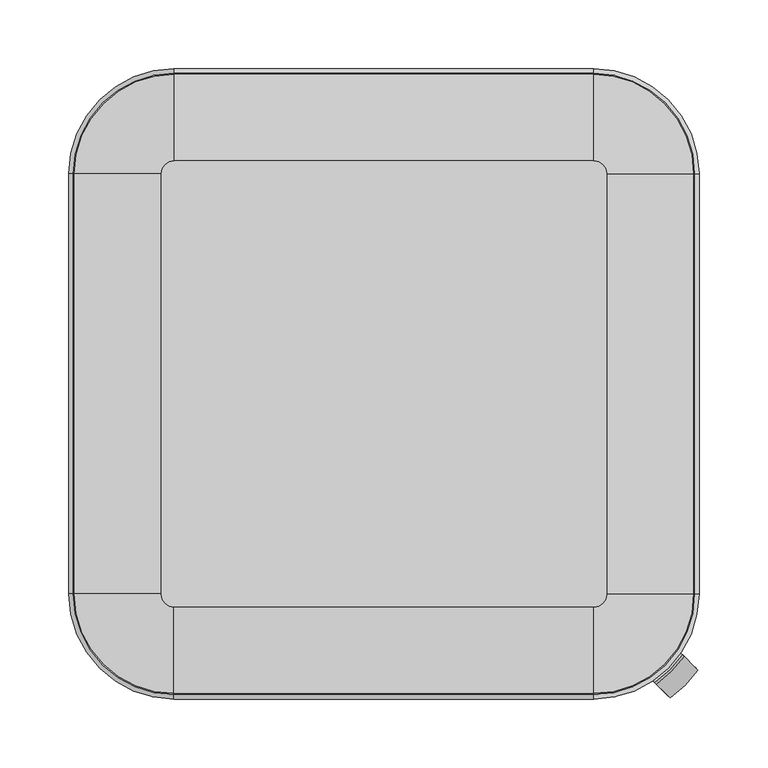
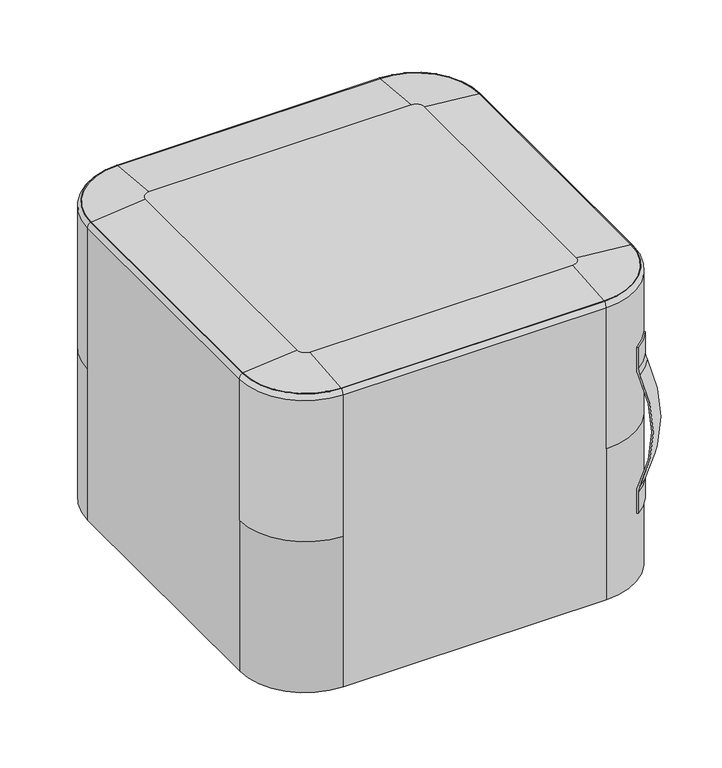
"""IFC4 building model written with IfcOpenShell, lengths in millimetres: furniture geometry, Indiana-Otty-Ottoman_Square : 840-1815SO."""

from ifc_helpers import new_model, si_unit, point, frame, origin, place, context, project, spatial, polyline, circle_curve, ellipse_curve, trimmed, source, transform, mapped, element, save
from ifc_brep_helpers import plane_surface, cylinder_surface, revolved_surface, advanced_brep


def furniture_f773997b(model_context):
    return source(origin(), model_context, "Body", "AdvancedBrep", [
        advanced_brep(
        [(174.625, -174.625, 19.8875), (174.625, -197.125, 19.8875), (174.625, -152.125, 19.8875), (174.625, -196.6765082, 4.2458827), (174.625, -152.5734918, 4.2458827), (174.625, -192.1913665, -0.1125), (174.625, -157.0586335, -0.1125), (174.625, -184.8926178, -0.1125), (174.625, -164.3573822, -0.1125), (174.625, -180.9981417, 3.9179615), (174.625, -168.2518583, 3.9179615), (174.625, -174.625, 3.9179615)],
        [
            (0, 1),
            (1, 2, circle_curve(frame((174.625, -174.625, 19.8875), z_axis=(0.0, 0.0, 1.0), x_axis=(0.0, -1.0, 0.0)), 22.5)),
            (2, 0),
            (2, 1, circle_curve(frame((174.625, -174.625, 19.8875), z_axis=(0.0, 0.0, 1.0), x_axis=(0.0, -1.0, 0.0)), 22.5)),
            (1, 3),
            (3, 4, circle_curve(frame((174.625, -174.625, 4.2458827), z_axis=(0.0, 0.0, 1.0), x_axis=(0.0, -1.0, 0.0)), 22.0515082)),
            (4, 2),
            (4, 3, circle_curve(frame((174.625, -174.625, 4.2458827), z_axis=(0.0, 0.0, 1.0), x_axis=(0.0, -1.0, 0.0)), 22.0515082)),
            (3, 5, circle_curve(frame((174.625, -192.1913665, 4.3744851), z_axis=(1.0, 0.0, 0.0), x_axis=(0.0, 1.0, 0.0)), 4.4869851)),
            (5, 6, circle_curve(frame((174.625, -174.625, -0.1125), z_axis=(0.0, 0.0, 1.0), x_axis=(0.0, -1.0, 0.0)), 17.5663665)),
            (6, 4, circle_curve(frame((174.625, -157.0586335, 4.3744851), z_axis=(1.0, 0.0, 0.0), x_axis=(0.0, -1.0, 0.0)), 4.4869851)),
            (6, 5, circle_curve(frame((174.625, -174.625, -0.1125), z_axis=(0.0, 0.0, 1.0), x_axis=(0.0, -1.0, 0.0)), 17.5663665)),
            (5, 7),
            (7, 8, circle_curve(frame((174.625, -174.625, -0.1125), z_axis=(0.0, 0.0, 1.0), x_axis=(0.0, -1.0, 0.0)), 10.2676178)),
            (8, 6),
            (8, 7, circle_curve(frame((174.625, -174.625, -0.1125), z_axis=(0.0, 0.0, 1.0), x_axis=(0.0, -1.0, 0.0)), 10.2676178)),
            (7, 9, circle_curve(frame((174.625, -184.8926178, 3.7842702), z_axis=(1.0, 0.0, 0.0), x_axis=(0.0, 1.0, 0.0)), 3.8967702)),
            (9, 10, circle_curve(frame((174.625, -174.625, 3.9179615), z_axis=(0.0, 0.0, 1.0), x_axis=(0.0, -1.0, 0.0)), 6.3731417)),
            (10, 8, circle_curve(frame((174.625, -164.3573822, 3.7842702), z_axis=(1.0, 0.0, 0.0), x_axis=(0.0, -1.0, 0.0)), 3.8967702)),
            (10, 9, circle_curve(frame((174.625, -174.625, 3.9179615), z_axis=(0.0, 0.0, 1.0), x_axis=(0.0, -1.0, 0.0)), 6.3731417)),
            (9, 11),
            (11, 10),
        ],
        [
            plane_surface(frame((174.625, -174.625, 19.8875), z_axis=(0.0, 0.0, 1.0), x_axis=(0.0, -1.0, 0.0))),
            revolved_surface(polyline([(174.625, -196.6765082, 4.2458827), (174.625, -197.125, 19.8875)]), (174.625, -174.625, 31.0803862), (0.0, 0.0, 1.0)),
            revolved_surface(trimmed(ellipse_curve(frame((174.625, -192.1913665, 4.3744851), z_axis=(-1.0, 0.0, 0.0), x_axis=(0.0, 1.0, 0.0)), 4.4869851, 4.4869851), [point((174.625, -192.1913665, -0.1125))], [point((174.625, -196.6765082, 4.2458827))], True, "CARTESIAN"), (174.625, -174.625, 31.0803862), (0.0, 0.0, 1.0)),
            plane_surface(frame((174.625, -174.625, -0.1125), z_axis=(0.0, 0.0, -1.0), x_axis=(0.0, -1.0, 0.0))),
            revolved_surface(trimmed(ellipse_curve(frame((174.625, -184.8926178, 3.7842702), z_axis=(-1.0, 0.0, 0.0), x_axis=(0.0, 1.0, 0.0)), 3.8967702, 3.8967702), [point((174.625, -180.9981417, 3.9179615))], [point((174.625, -184.8926178, -0.1125))], True, "CARTESIAN"), (174.625, -174.625, 31.0803862), (0.0, 0.0, 1.0)),
            plane_surface(frame((174.625, -174.625, 3.9179615), z_axis=(0.0, 0.0, -1.0), x_axis=(0.0, -1.0, 0.0))),
        ],
        [
            (0, [[1, 2, 3]]),
            (0, [[-3, 4, -1]]),
            (1, [[-2, 5, 6, 7]]),
            (1, [[-4, -7, 8, -5]]),
            (2, [[-6, 9, 10, 11]]),
            (2, [[-8, -11, 12, -9]]),
            (3, [[-10, 13, 14, 15]]),
            (3, [[-12, -15, 16, -13]]),
            (4, [[-14, 17, 18, 19]]),
            (4, [[-16, -19, 20, -17]]),
            (5, [[-18, 21, 22]]),
            (5, [[-20, -22, -21]]),
        ],
    ),
        advanced_brep(
        [(174.625, 174.625, 19.8875), (174.625, 152.125, 19.8875), (174.625, 197.125, 19.8875), (174.625, 152.5734918, 4.2458827), (174.625, 196.6765082, 4.2458827), (174.625, 157.0586335, -0.1125), (174.625, 192.1913665, -0.1125), (174.625, 164.3573822, -0.1125), (174.625, 184.8926178, -0.1125), (174.625, 168.2518583, 3.9179615), (174.625, 180.9981417, 3.9179615), (174.625, 174.625, 3.9179615)],
        [
            (0, 1),
            (1, 2, circle_curve(frame((174.625, 174.625, 19.8875), z_axis=(0.0, 0.0, 1.0), x_axis=(0.0, -1.0, 0.0)), 22.5)),
            (2, 0),
            (2, 1, circle_curve(frame((174.625, 174.625, 19.8875), z_axis=(0.0, 0.0, 1.0), x_axis=(0.0, -1.0, 0.0)), 22.5)),
            (1, 3),
            (3, 4, circle_curve(frame((174.625, 174.625, 4.2458827), z_axis=(0.0, 0.0, 1.0), x_axis=(0.0, -1.0, 0.0)), 22.0515082)),
            (4, 2),
            (4, 3, circle_curve(frame((174.625, 174.625, 4.2458827), z_axis=(0.0, 0.0, 1.0), x_axis=(0.0, -1.0, 0.0)), 22.0515082)),
            (3, 5, circle_curve(frame((174.625, 157.0586335, 4.3744851), z_axis=(1.0, 0.0, 0.0), x_axis=(0.0, 1.0, 0.0)), 4.4869851)),
            (5, 6, circle_curve(frame((174.625, 174.625, -0.1125), z_axis=(0.0, 0.0, 1.0), x_axis=(0.0, -1.0, 0.0)), 17.5663665)),
            (6, 4, circle_curve(frame((174.625, 192.1913665, 4.3744851), z_axis=(1.0, 0.0, 0.0), x_axis=(0.0, -1.0, 0.0)), 4.4869851)),
            (6, 5, circle_curve(frame((174.625, 174.625, -0.1125), z_axis=(0.0, 0.0, 1.0), x_axis=(0.0, -1.0, 0.0)), 17.5663665)),
            (5, 7),
            (7, 8, circle_curve(frame((174.625, 174.625, -0.1125), z_axis=(0.0, 0.0, 1.0), x_axis=(0.0, -1.0, 0.0)), 10.2676178)),
            (8, 6),
            (8, 7, circle_curve(frame((174.625, 174.625, -0.1125), z_axis=(0.0, 0.0, 1.0), x_axis=(0.0, -1.0, 0.0)), 10.2676178)),
            (7, 9, circle_curve(frame((174.625, 164.3573822, 3.7842702), z_axis=(1.0, 0.0, 0.0), x_axis=(0.0, 1.0, 0.0)), 3.8967702)),
            (9, 10, circle_curve(frame((174.625, 174.625, 3.9179615), z_axis=(0.0, 0.0, 1.0), x_axis=(0.0, -1.0, 0.0)), 6.3731417)),
            (10, 8, circle_curve(frame((174.625, 184.8926178, 3.7842702), z_axis=(1.0, 0.0, 0.0), x_axis=(0.0, -1.0, 0.0)), 3.8967702)),
            (10, 9, circle_curve(frame((174.625, 174.625, 3.9179615), z_axis=(0.0, 0.0, 1.0), x_axis=(0.0, -1.0, 0.0)), 6.3731417)),
            (9, 11),
            (11, 10),
        ],
        [
            plane_surface(frame((174.625, 174.625, 19.8875), z_axis=(0.0, 0.0, 1.0), x_axis=(0.0, -1.0, 0.0))),
            revolved_surface(polyline([(174.625, 152.5734918, 4.2458827), (174.625, 152.125, 19.8875)]), (174.625, 174.625, 31.0803862), (0.0, 0.0, 1.0)),
            revolved_surface(trimmed(ellipse_curve(frame((174.625, 157.0586335, 4.3744851), z_axis=(-1.0, 0.0, 0.0), x_axis=(0.0, 1.0, 0.0)), 4.4869851, 4.4869851), [point((174.625, 157.0586335, -0.1125))], [point((174.625, 152.5734918, 4.2458827))], True, "CARTESIAN"), (174.625, 174.625, 31.0803862), (0.0, 0.0, 1.0)),
            plane_surface(frame((174.625, 174.625, -0.1125), z_axis=(0.0, 0.0, -1.0), x_axis=(0.0, -1.0, 0.0))),
            revolved_surface(trimmed(ellipse_curve(frame((174.625, 164.3573822, 3.7842702), z_axis=(-1.0, 0.0, 0.0), x_axis=(0.0, 1.0, 0.0)), 3.8967702, 3.8967702), [point((174.625, 168.2518583, 3.9179615))], [point((174.625, 164.3573822, -0.1125))], True, "CARTESIAN"), (174.625, 174.625, 31.0803862), (0.0, 0.0, 1.0)),
            plane_surface(frame((174.625, 174.625, 3.9179615), z_axis=(0.0, 0.0, -1.0), x_axis=(0.0, -1.0, 0.0))),
        ],
        [
            (0, [[1, 2, 3]]),
            (0, [[-3, 4, -1]]),
            (1, [[-2, 5, 6, 7]]),
            (1, [[-4, -7, 8, -5]]),
            (2, [[-6, 9, 10, 11]]),
            (2, [[-8, -11, 12, -9]]),
            (3, [[-10, 13, 14, 15]]),
            (3, [[-12, -15, 16, -13]]),
            (4, [[-14, 17, 18, 19]]),
            (4, [[-16, -19, 20, -17]]),
            (5, [[-18, 21, 22]]),
            (5, [[-20, -22, -21]]),
        ],
    ),
        advanced_brep(
        [(-174.625, -174.625, 19.8875), (-174.625, -197.125, 19.8875), (-174.625, -152.125, 19.8875), (-174.625, -196.6765082, 4.2458827), (-174.625, -152.5734918, 4.2458827), (-174.625, -192.1913665, -0.1125), (-174.625, -157.0586335, -0.1125), (-174.625, -184.8926178, -0.1125), (-174.625, -164.3573822, -0.1125), (-174.625, -180.9981417, 3.9179615), (-174.625, -168.2518583, 3.9179615), (-174.625, -174.625, 3.9179615)],
        [
            (0, 1),
            (1, 2, circle_curve(frame((-174.625, -174.625, 19.8875), z_axis=(0.0, 0.0, 1.0), x_axis=(0.0, -1.0, 0.0)), 22.5)),
            (2, 0),
            (2, 1, circle_curve(frame((-174.625, -174.625, 19.8875), z_axis=(0.0, 0.0, 1.0), x_axis=(0.0, -1.0, 0.0)), 22.5)),
            (1, 3),
            (3, 4, circle_curve(frame((-174.625, -174.625, 4.2458827), z_axis=(0.0, 0.0, 1.0), x_axis=(0.0, -1.0, 0.0)), 22.0515082)),
            (4, 2),
            (4, 3, circle_curve(frame((-174.625, -174.625, 4.2458827), z_axis=(0.0, 0.0, 1.0), x_axis=(0.0, -1.0, 0.0)), 22.0515082)),
            (3, 5, circle_curve(frame((-174.625, -192.1913665, 4.3744851), z_axis=(1.0, 0.0, 0.0), x_axis=(0.0, 1.0, 0.0)), 4.4869851)),
            (5, 6, circle_curve(frame((-174.625, -174.625, -0.1125), z_axis=(0.0, 0.0, 1.0), x_axis=(0.0, -1.0, 0.0)), 17.5663665)),
            (6, 4, circle_curve(frame((-174.625, -157.0586335, 4.3744851), z_axis=(1.0, 0.0, 0.0), x_axis=(0.0, -1.0, 0.0)), 4.4869851)),
            (6, 5, circle_curve(frame((-174.625, -174.625, -0.1125), z_axis=(0.0, 0.0, 1.0), x_axis=(0.0, -1.0, 0.0)), 17.5663665)),
            (5, 7),
            (7, 8, circle_curve(frame((-174.625, -174.625, -0.1125), z_axis=(0.0, 0.0, 1.0), x_axis=(0.0, -1.0, 0.0)), 10.2676178)),
            (8, 6),
            (8, 7, circle_curve(frame((-174.625, -174.625, -0.1125), z_axis=(0.0, 0.0, 1.0), x_axis=(0.0, -1.0, 0.0)), 10.2676178)),
            (7, 9, circle_curve(frame((-174.625, -184.8926178, 3.7842702), z_axis=(1.0, 0.0, 0.0), x_axis=(0.0, 1.0, 0.0)), 3.8967702)),
            (9, 10, circle_curve(frame((-174.625, -174.625, 3.9179615), z_axis=(0.0, 0.0, 1.0), x_axis=(0.0, -1.0, 0.0)), 6.3731417)),
            (10, 8, circle_curve(frame((-174.625, -164.3573822, 3.7842702), z_axis=(1.0, 0.0, 0.0), x_axis=(0.0, -1.0, 0.0)), 3.8967702)),
            (10, 9, circle_curve(frame((-174.625, -174.625, 3.9179615), z_axis=(0.0, 0.0, 1.0), x_axis=(0.0, -1.0, 0.0)), 6.3731417)),
            (9, 11),
            (11, 10),
        ],
        [
            plane_surface(frame((-174.625, -174.625, 19.8875), z_axis=(0.0, 0.0, 1.0), x_axis=(0.0, -1.0, 0.0))),
            revolved_surface(polyline([(-174.625, -196.6765082, 4.2458827), (-174.625, -197.125, 19.8875)]), (-174.625, -174.625, 31.0803862), (0.0, 0.0, 1.0)),
            revolved_surface(trimmed(ellipse_curve(frame((-174.625, -192.1913665, 4.3744851), z_axis=(-1.0, 0.0, 0.0), x_axis=(0.0, 1.0, 0.0)), 4.4869851, 4.4869851), [point((-174.625, -192.1913665, -0.1125))], [point((-174.625, -196.6765082, 4.2458827))], True, "CARTESIAN"), (-174.625, -174.625, 31.0803862), (0.0, 0.0, 1.0)),
            plane_surface(frame((-174.625, -174.625, -0.1125), z_axis=(0.0, 0.0, -1.0), x_axis=(0.0, -1.0, 0.0))),
            revolved_surface(trimmed(ellipse_curve(frame((-174.625, -184.8926178, 3.7842702), z_axis=(-1.0, 0.0, 0.0), x_axis=(0.0, 1.0, 0.0)), 3.8967702, 3.8967702), [point((-174.625, -180.9981417, 3.9179615))], [point((-174.625, -184.8926178, -0.1125))], True, "CARTESIAN"), (-174.625, -174.625, 31.0803862), (0.0, 0.0, 1.0)),
            plane_surface(frame((-174.625, -174.625, 3.9179615), z_axis=(0.0, 0.0, -1.0), x_axis=(0.0, -1.0, 0.0))),
        ],
        [
            (0, [[1, 2, 3]]),
            (0, [[-3, 4, -1]]),
            (1, [[-2, 5, 6, 7]]),
            (1, [[-4, -7, 8, -5]]),
            (2, [[-6, 9, 10, 11]]),
            (2, [[-8, -11, 12, -9]]),
            (3, [[-10, 13, 14, 15]]),
            (3, [[-12, -15, 16, -13]]),
            (4, [[-14, 17, 18, 19]]),
            (4, [[-16, -19, 20, -17]]),
            (5, [[-18, 21, 22]]),
            (5, [[-20, -22, -21]]),
        ],
    ),
        advanced_brep(
        [(-174.625, 174.625, 19.8875), (-174.625, 152.125, 19.8875), (-174.625, 197.125, 19.8875), (-174.625, 152.5734918, 4.2458827), (-174.625, 196.6765082, 4.2458827), (-174.625, 157.0586335, -0.1125), (-174.625, 192.1913665, -0.1125), (-174.625, 164.3573822, -0.1125), (-174.625, 184.8926178, -0.1125), (-174.625, 168.2518583, 3.9179615), (-174.625, 180.9981417, 3.9179615), (-174.625, 174.625, 3.9179615)],
        [
            (0, 1),
            (1, 2, circle_curve(frame((-174.625, 174.625, 19.8875), z_axis=(0.0, 0.0, 1.0), x_axis=(0.0, -1.0, 0.0)), 22.5)),
            (2, 0),
            (2, 1, circle_curve(frame((-174.625, 174.625, 19.8875), z_axis=(0.0, 0.0, 1.0), x_axis=(0.0, -1.0, 0.0)), 22.5)),
            (1, 3),
            (3, 4, circle_curve(frame((-174.625, 174.625, 4.2458827), z_axis=(0.0, 0.0, 1.0), x_axis=(0.0, -1.0, 0.0)), 22.0515082)),
            (4, 2),
            (4, 3, circle_curve(frame((-174.625, 174.625, 4.2458827), z_axis=(0.0, 0.0, 1.0), x_axis=(0.0, -1.0, 0.0)), 22.0515082)),
            (3, 5, circle_curve(frame((-174.625, 157.0586335, 4.3744851), z_axis=(1.0, 0.0, 0.0), x_axis=(0.0, 1.0, 0.0)), 4.4869851)),
            (5, 6, circle_curve(frame((-174.625, 174.625, -0.1125), z_axis=(0.0, 0.0, 1.0), x_axis=(0.0, -1.0, 0.0)), 17.5663665)),
            (6, 4, circle_curve(frame((-174.625, 192.1913665, 4.3744851), z_axis=(1.0, 0.0, 0.0), x_axis=(0.0, -1.0, 0.0)), 4.4869851)),
            (6, 5, circle_curve(frame((-174.625, 174.625, -0.1125), z_axis=(0.0, 0.0, 1.0), x_axis=(0.0, -1.0, 0.0)), 17.5663665)),
            (5, 7),
            (7, 8, circle_curve(frame((-174.625, 174.625, -0.1125), z_axis=(0.0, 0.0, 1.0), x_axis=(0.0, -1.0, 0.0)), 10.2676178)),
            (8, 6),
            (8, 7, circle_curve(frame((-174.625, 174.625, -0.1125), z_axis=(0.0, 0.0, 1.0), x_axis=(0.0, -1.0, 0.0)), 10.2676178)),
            (7, 9, circle_curve(frame((-174.625, 164.3573822, 3.7842702), z_axis=(1.0, 0.0, 0.0), x_axis=(0.0, 1.0, 0.0)), 3.8967702)),
            (9, 10, circle_curve(frame((-174.625, 174.625, 3.9179615), z_axis=(0.0, 0.0, 1.0), x_axis=(0.0, -1.0, 0.0)), 6.3731417)),
            (10, 8, circle_curve(frame((-174.625, 184.8926178, 3.7842702), z_axis=(1.0, 0.0, 0.0), x_axis=(0.0, -1.0, 0.0)), 3.8967702)),
            (10, 9, circle_curve(frame((-174.625, 174.625, 3.9179615), z_axis=(0.0, 0.0, 1.0), x_axis=(0.0, -1.0, 0.0)), 6.3731417)),
            (9, 11),
            (11, 10),
        ],
        [
            plane_surface(frame((-174.625, 174.625, 19.8875), z_axis=(0.0, 0.0, 1.0), x_axis=(0.0, -1.0, 0.0))),
            revolved_surface(polyline([(-174.625, 152.5734918, 4.2458827), (-174.625, 152.125, 19.8875)]), (-174.625, 174.625, 31.0803862), (0.0, 0.0, 1.0)),
            revolved_surface(trimmed(ellipse_curve(frame((-174.625, 157.0586335, 4.3744851), z_axis=(-1.0, 0.0, 0.0), x_axis=(0.0, 1.0, 0.0)), 4.4869851, 4.4869851), [point((-174.625, 157.0586335, -0.1125))], [point((-174.625, 152.5734918, 4.2458827))], True, "CARTESIAN"), (-174.625, 174.625, 31.0803862), (0.0, 0.0, 1.0)),
            plane_surface(frame((-174.625, 174.625, -0.1125), z_axis=(0.0, 0.0, -1.0), x_axis=(0.0, -1.0, 0.0))),
            revolved_surface(trimmed(ellipse_curve(frame((-174.625, 164.3573822, 3.7842702), z_axis=(-1.0, 0.0, 0.0), x_axis=(0.0, 1.0, 0.0)), 3.8967702, 3.8967702), [point((-174.625, 168.2518583, 3.9179615))], [point((-174.625, 164.3573822, -0.1125))], True, "CARTESIAN"), (-174.625, 174.625, 31.0803862), (0.0, 0.0, 1.0)),
            plane_surface(frame((-174.625, 174.625, 3.9179615), z_axis=(0.0, 0.0, -1.0), x_axis=(0.0, -1.0, 0.0))),
        ],
        [
            (0, [[1, 2, 3]]),
            (0, [[-3, 4, -1]]),
            (1, [[-2, 5, 6, 7]]),
            (1, [[-4, -7, 8, -5]]),
            (2, [[-6, 9, 10, 11]]),
            (2, [[-8, -11, 12, -9]]),
            (3, [[-10, 13, 14, 15]]),
            (3, [[-12, -15, 16, -13]]),
            (4, [[-14, 17, 18, 19]]),
            (4, [[-16, -19, 20, -17]]),
            (5, [[-18, 21, 22]]),
            (5, [[-20, -22, -21]]),
        ],
    ),
        advanced_brep(
        [(195.2231381, -215.4287144, 297.85), (196.3655136, -216.5710898, 297.85), (216.5710898, -196.3655136, 297.85), (215.4287144, -195.2231381, 297.85), (195.2231381, -215.4287144, 272.2626189), (196.5167074, -216.7222836, 263.4816314), (196.5167074, -216.7222836, 129.0183686), (195.2231381, -215.4287144, 120.2373811), (195.2231381, -215.4287144, 94.65), (196.3655136, -216.5710898, 94.65), (196.3655136, -216.5710898, 120.2373811), (197.5640422, -217.7696185, 128.3732152), (197.5640422, -217.7696185, 264.1267848), (196.3655136, -216.5710898, 272.2626189), (216.5710898, -196.3655136, 272.2626189), (217.7696185, -197.5640422, 264.1267848), (217.7696185, -197.5640422, 128.3732152), (216.5710898, -196.3655136, 120.2373811), (216.5710898, -196.3655136, 94.65), (215.4287144, -195.2231381, 94.65), (215.4287144, -195.2231381, 120.2373811), (216.7222836, -196.5167074, 129.0183686), (216.7222836, -196.5167074, 263.4816314), (215.4287144, -195.2231381, 272.2626189)],
        [
            (0, 1),
            (1, 2, circle_curve(frame((152.4, -152.4, 297.85), z_axis=(0.0, 0.0, 1.0), x_axis=(1.0, 0.0, 0.0)), 77.7875)),
            (2, 3),
            (3, 0, circle_curve(frame((152.4, -152.4, 297.85), z_axis=(0.0, 0.0, -1.0), x_axis=(1.0, 0.0, 0.0)), 76.2)),
            (0, 4),
            (4, 5, circle_curve(frame((210.7716648, -230.9772411, 272.2626189), z_axis=(-0.7071067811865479, -0.7071067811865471, 0.0), x_axis=(-0.7071067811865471, 0.7071067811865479, 0.0)), 21.9889373)),
            (5, 6, circle_curve(frame((87.3736238, -107.5792001, 196.25), z_axis=(0.7071067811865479, 0.7071067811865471, 0.0), x_axis=(0.6482785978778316, -0.6482785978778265, 0.39933659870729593)), 168.3583014)),
            (6, 7, circle_curve(frame((210.7716648, -230.9772411, 120.2373811), z_axis=(-0.7071067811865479, -0.7071067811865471, 0.0), x_axis=(-0.6482785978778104, 0.6482785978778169, 0.39933659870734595)), 21.9889373)),
            (7, 8),
            (8, 9),
            (9, 10),
            (10, 11, circle_curve(frame((210.7716648, -230.9772411, 120.2373811), z_axis=(0.7071067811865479, 0.7071067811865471, 0.0), x_axis=(-0.6482785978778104, 0.6482785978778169, 0.39933659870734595)), 20.3733744)),
            (11, 12, circle_curve(frame((87.3736238, -107.5792001, 196.25), z_axis=(-0.7071067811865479, -0.7071067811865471, 0.0), x_axis=(0.6482785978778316, -0.6482785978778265, 0.39933659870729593)), 169.9738642)),
            (12, 13, circle_curve(frame((210.7716648, -230.9772411, 272.2626189), z_axis=(0.7071067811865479, 0.7071067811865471, 0.0), x_axis=(-0.7071067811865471, 0.7071067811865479, 0.0)), 20.3733744)),
            (13, 1),
            (2, 14),
            (14, 15, circle_curve(frame((230.9772411, -210.7716648, 272.2626189), z_axis=(-0.7071067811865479, -0.7071067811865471, 0.0), x_axis=(-0.7071067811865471, 0.7071067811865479, 0.0)), 20.3733744)),
            (15, 16, circle_curve(frame((107.5792001, -87.3736238, 196.25), z_axis=(0.7071067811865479, 0.7071067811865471, 0.0), x_axis=(0.6482785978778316, -0.6482785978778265, 0.39933659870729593)), 169.9738642)),
            (16, 17, circle_curve(frame((230.9772411, -210.7716648, 120.2373811), z_axis=(-0.7071067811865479, -0.7071067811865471, 0.0), x_axis=(-0.6482785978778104, 0.6482785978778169, 0.39933659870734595)), 20.3733744)),
            (17, 18),
            (18, 19),
            (19, 20),
            (20, 21, circle_curve(frame((230.9772411, -210.7716648, 120.2373811), z_axis=(0.7071067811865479, 0.7071067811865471, 0.0), x_axis=(-0.6482785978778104, 0.6482785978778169, 0.39933659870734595)), 21.9889373)),
            (21, 22, circle_curve(frame((107.5792001, -87.3736238, 196.25), z_axis=(-0.7071067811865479, -0.7071067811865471, 0.0), x_axis=(0.6482785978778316, -0.6482785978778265, 0.39933659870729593)), 168.3583014)),
            (22, 23, circle_curve(frame((230.9772411, -210.7716648, 272.2626189), z_axis=(0.7071067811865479, 0.7071067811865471, 0.0), x_axis=(-0.7071067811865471, 0.7071067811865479, 0.0)), 21.9889373)),
            (23, 3),
            (8, 19, circle_curve(frame((152.4, -152.4, 94.65), z_axis=(0.0, 0.0, 1.0), x_axis=(1.0, 0.0, 0.0)), 76.2)),
            (18, 9, circle_curve(frame((152.4, -152.4, 94.65), z_axis=(0.0, 0.0, -1.0), x_axis=(1.0, 0.0, 0.0)), 77.7875)),
            (13, 14, circle_curve(frame((152.4, -152.4, 272.2626189), z_axis=(0.0, 0.0, 1.0), x_axis=(1.0, 0.0, 0.0)), 77.7875)),
            (23, 4, circle_curve(frame((152.4, -152.4, 272.2626189), z_axis=(0.0, 0.0, -1.0), x_axis=(1.0, 0.0, 0.0)), 76.2)),
            (12, 15, circle_curve(frame((158.0967742, -158.0967742, 233.591861), z_axis=(-0.2823736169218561, 0.28237361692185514, 0.9168043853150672), x_axis=(0.9584021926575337, 0.04159780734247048, 0.28237361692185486)), 77.7875)),
            (22, 5, circle_curve(frame((158.0967742, -158.0967742, 233.591861), z_axis=(0.2823736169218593, -0.28237361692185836, -0.9168043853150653), x_axis=(0.9584021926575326, 0.04159780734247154, 0.2823736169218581)), 76.2)),
            (11, 16, circle_curve(frame((158.0967742, -158.0967742, 158.908139), z_axis=(0.2823736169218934, -0.28237361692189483, 0.9168043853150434), x_axis=(0.9584021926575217, 0.041597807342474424, -0.28237361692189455)), 77.7875)),
            (21, 6, circle_curve(frame((158.0967742, -158.0967742, 158.908139), z_axis=(-0.28237361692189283, 0.2823736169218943, -0.9168043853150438), x_axis=(0.9584021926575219, 0.0415978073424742, -0.282373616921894)), 76.2)),
            (10, 17, circle_curve(frame((152.4, -152.4, 120.2373811), z_axis=(0.0, 0.0, 1.0), x_axis=(1.0, 0.0, 0.0)), 77.7875)),
            (20, 7, circle_curve(frame((152.4, -152.4, 120.2373811), z_axis=(0.0, 0.0, -1.0), x_axis=(1.0, 0.0, 0.0)), 76.2)),
        ],
        [
            plane_surface(frame((207.4040687, -207.4040687, 297.85), z_axis=(0.0, 0.0, 1.0), x_axis=(0.7071067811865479, 0.7071067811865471, 0.0))),
            plane_surface(frame((195.2231381, -215.4287144, 297.85), z_axis=(-0.7071067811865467, -0.7071067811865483, 0.0), x_axis=(0.0, 0.0, -1.0))),
            plane_surface(frame((216.5710898, -196.3655136, 297.85), z_axis=(0.7071067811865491, 0.7071067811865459, 0.0), x_axis=(0.0, 0.0, -1.0))),
            plane_surface(frame((207.4040687, -207.4040687, 94.65), z_axis=(0.0, 0.0, -1.0000000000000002), x_axis=(0.7071067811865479, 0.7071067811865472, 0.0))),
            cylinder_surface(frame((152.4, -152.4, 297.85), z_axis=(0.0, 0.0, 1.0), x_axis=(1.0, 0.0, 0.0)), 77.7875),
            revolved_surface(polyline([(228.60000000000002, -152.4, 272.2626189), (228.60000000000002, -152.4, 297.85)]), (152.4, -152.4, 297.85), (0.0, 0.0, -1.0)),
            revolved_surface(trimmed(ellipse_curve(frame((152.4, -152.4, 272.2626189), z_axis=(0.0, 0.0, 1.0), x_axis=(1.0, 0.0, 0.0)), 77.7875, 77.7875), [point((196.3655136, -216.5710898, 272.2626189))], [point((216.5710898, -196.3655136, 272.2626189))], True, "CARTESIAN"), (220.8744529, -220.8744529, 272.2626189), (-0.7071067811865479, -0.7071067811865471, 0.0)),
            revolved_surface(trimmed(ellipse_curve(frame((152.4, -152.4, 272.2626189), z_axis=(0.0, 0.0, -1.0), x_axis=(1.0, 0.0, 0.0)), 76.2, 76.2), [point((215.4287144, -195.2231381, 272.2626189))], [point((195.2231381, -215.4287144, 272.2626189))], True, "CARTESIAN"), (220.8744529, -220.8744529, 272.2626189), (-0.7071067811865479, -0.7071067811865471, 0.0)),
            revolved_surface(trimmed(ellipse_curve(frame((158.0967742, -158.0967742, 233.591861), z_axis=(-0.28237361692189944, 0.2823736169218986, 0.9168043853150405), x_axis=(0.9584021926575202, 0.04159780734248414, 0.2823736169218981)), 77.7875, 77.7875), [point((197.5640422, -217.7696185, 264.1267848))], [point((217.7696185, -197.5640422, 264.1267848))], True, "CARTESIAN"), (97.4764119, -97.4764119, 196.25), (0.7071067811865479, 0.7071067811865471, 0.0)),
            revolved_surface(trimmed(ellipse_curve(frame((158.0967742, -158.0967742, 233.591861), z_axis=(0.28237361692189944, -0.2823736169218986, -0.9168043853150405), x_axis=(0.9584021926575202, 0.04159780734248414, 0.2823736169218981)), 76.2, 76.2), [point((216.7222836, -196.5167074, 263.4816314))], [point((196.5167074, -216.7222836, 263.4816314))], True, "CARTESIAN"), (97.4764119, -97.4764119, 196.25), (0.7071067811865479, 0.7071067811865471, 0.0)),
            revolved_surface(trimmed(ellipse_curve(frame((158.0967742, -158.0967742, 158.908139), z_axis=(0.28237361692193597, -0.2823736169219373, 0.9168043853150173), x_axis=(0.9584021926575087, 0.041597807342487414, -0.28237361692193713)), 77.7875, 77.7875), [point((197.5640422, -217.7696185, 128.3732152))], [point((217.7696185, -197.5640422, 128.3732152))], True, "CARTESIAN"), (220.8744529, -220.8744529, 120.2373811), (-0.7071067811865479, -0.7071067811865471, 0.0)),
            revolved_surface(trimmed(ellipse_curve(frame((158.0967742, -158.0967742, 158.908139), z_axis=(-0.28237361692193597, 0.2823736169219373, -0.9168043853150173), x_axis=(0.9584021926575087, 0.041597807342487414, -0.28237361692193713)), 76.2, 76.2), [point((216.7222836, -196.5167074, 129.0183686))], [point((196.5167074, -216.7222836, 129.0183686))], True, "CARTESIAN"), (220.8744529, -220.8744529, 120.2373811), (-0.7071067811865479, -0.7071067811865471, 0.0)),
            cylinder_surface(frame((152.4, -152.4, 120.2373811), z_axis=(0.0, 0.0, 1.0), x_axis=(1.0, 0.0, 0.0)), 77.7875),
            revolved_surface(polyline([(228.60000000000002, -152.4, 94.65), (228.60000000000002, -152.4, 120.2373811)]), (152.4, -152.4, 120.2373811), (0.0, 0.0, -1.0)),
        ],
        [
            (0, [[1, 2, 3, 4]]),
            (1, [[-1, 5, 6, 7, 8, 9, 10, 11, 12, 13, 14, 15]]),
            (2, [[-3, 16, 17, 18, 19, 20, 21, 22, 23, 24, 25, 26]]),
            (3, [[27, -21, 28, -10]]),
            (4, [[-2, -15, 29, -16]]),
            (5, [[-4, -26, 30, -5]]),
            (6, [[-17, -29, -14, 31]]),
            (7, [[-6, -30, -25, 32]]),
            (8, [[-18, -31, -13, 33]]),
            (9, [[-7, -32, -24, 34]]),
            (10, [[-19, -33, -12, 35]]),
            (11, [[-8, -34, -23, 36]]),
            (12, [[-35, -11, -28, -20]]),
            (13, [[-36, -22, -27, -9]]),
        ],
    ),
        advanced_brep(
        [(224.6, 152.4, 374.9999966), (152.4, 224.6, 374.9999966), (152.4, 161.925, 381.0), (161.925, 152.4, 381.0), (225.3317905, 152.4, 375.2073863), (152.4, 225.3317905, 375.2073863), (228.6, 152.4, 369.0), (152.4, 228.6, 369.0), (228.6, 152.4, 196.25), (152.4, 228.6, 196.25), (161.925, -152.4, 381.0), (224.6, -152.4, 374.9999966), (225.3317905, -152.4, 375.2073863), (228.6, -152.4, 369.0), (228.6, -152.4, 196.25), (228.6, -152.4, 11.5), (228.6, 152.4, 11.5), (152.4, -161.925, 381.0), (152.4, -224.6, 374.9999966), (152.4, -225.3317905, 375.2073863), (152.4, -228.6, 369.0), (152.4, -228.6, 196.25), (-152.4, -161.925, 381.0), (-152.4, -224.6, 374.9999966), (-152.4, -225.3317905, 375.2073863), (-152.4, -228.6, 369.0), (-152.4, -228.6, 196.25), (-152.4, -228.6, 11.5), (152.4, -228.6, 11.5), (-161.925, -152.4, 381.0), (-224.6, -152.4, 374.9999966), (-225.3317905, -152.4, 375.2073863), (-228.6, -152.4, 369.0), (-228.6, -152.4, 196.25), (-161.925, 152.4, 381.0), (-224.6, 152.4, 374.9999966), (-225.3317905, 152.4, 375.2073863), (-228.6, 152.4, 369.0), (-228.6, 152.4, 196.25), (-228.6, 152.4, 11.5), (-228.6, -152.4, 11.5), (-152.4, 161.925, 381.0), (-152.4, 224.6, 374.9999966), (-152.4, 225.3317905, 375.2073863), (-152.4, 228.6, 369.0), (-152.4, 228.6, 196.25), (152.4, 228.6, 11.5), (-152.4, 228.6, 11.5), (-197.64375, -174.625, 11.5), (-151.60625, -174.625, 11.5), (-197.64375, 174.625, 11.5), (-151.60625, 174.625, 11.5), (151.60625, 174.625, 11.5), (197.64375, 174.625, 11.5), (151.60625, -174.625, 11.5), (197.64375, -174.625, 11.5), (-0.396875, 174.625, 11.5), (0.396875, 174.625, 11.5), (-0.396875, -174.625, 11.5), (0.396875, -174.625, 11.5), (-151.60625, -174.625, 19.834375), (-197.64375, -174.625, 19.834375), (-151.60625, 174.625, 19.834375), (-197.64375, 174.625, 19.834375), (151.60625, 174.625, 19.834375), (197.64375, 174.625, 19.834375), (151.60625, -174.625, 19.834375), (197.64375, -174.625, 19.834375), (-0.396875, 174.625, 11.896875), (0.396875, 174.625, 11.896875), (-0.396875, -174.625, 11.896875), (0.396875, -174.625, 11.896875)],
        [
            (0, 1, circle_curve(frame((152.4, 152.4, 374.9999966), z_axis=(0.0, 0.0, 1.0), x_axis=(0.0, 1.0, 0.0)), 72.2)),
            (1, 2, circle_curve(frame((152.4, 161.925, 50.6538794), z_axis=(1.0, 0.0, 0.0), x_axis=(0.0, 1.0, 0.0)), 330.3461206)),
            (2, 3, circle_curve(frame((152.4, 152.4, 381.0), z_axis=(0.0, 0.0, -1.0), x_axis=(0.0, 1.0, 0.0)), 9.525)),
            (3, 0, circle_curve(frame((161.925, 152.4, 50.6538794), z_axis=(0.0, 1.0, 0.0), x_axis=(1.0, 0.0, 0.0)), 330.3461206)),
            (0, 4, circle_curve(frame((225.0520185, 152.4, 374.799799), z_axis=(0.0, 1.0, 0.0), x_axis=(1.0, 0.0, 0.0)), 0.4943681)),
            (4, 5, circle_curve(frame((152.4, 152.4, 375.2073863), z_axis=(0.0, 0.0, 1.0), x_axis=(0.0, 1.0, 0.0)), 72.9317905)),
            (5, 1, circle_curve(frame((152.4, 225.0520185, 374.799799), z_axis=(1.0, 0.0, 0.0), x_axis=(0.0, 1.0, 0.0)), 0.4943681)),
            (4, 6, circle_curve(frame((221.0709786, 152.4, 369.0), z_axis=(0.0, 1.0, 0.0), x_axis=(1.0, 0.0, 0.0)), 7.5290214)),
            (6, 7, circle_curve(frame((152.4, 152.4, 369.0), z_axis=(0.0, 0.0, 1.0), x_axis=(0.0, 1.0, 0.0)), 76.2)),
            (7, 5, circle_curve(frame((152.4, 221.0709786, 369.0), z_axis=(1.0, 0.0, 0.0), x_axis=(0.0, 1.0, 0.0)), 7.5290214)),
            (6, 8),
            (8, 9, circle_curve(frame((152.4, 152.4, 196.25), z_axis=(0.0, 0.0, 1.0), x_axis=(0.0, 1.0, 0.0)), 76.2)),
            (9, 7),
            (3, 10),
            (10, 11, circle_curve(frame((161.925, -152.4, 50.6538794), z_axis=(0.0, 1.0, 0.0), x_axis=(1.0, 0.0, 0.0)), 330.3461206)),
            (11, 0),
            (11, 12, circle_curve(frame((225.0520185, -152.4, 374.799799), z_axis=(0.0, 1.0, 0.0), x_axis=(1.0, 0.0, 0.0)), 0.4943681)),
            (12, 4),
            (12, 13, circle_curve(frame((221.0709786, -152.4, 369.0), z_axis=(0.0, 1.0, 0.0), x_axis=(1.0, 0.0, 0.0)), 7.5290214)),
            (13, 6),
            (13, 14),
            (14, 15),
            (15, 16),
            (16, 8),
            (10, 17, circle_curve(frame((152.4, -152.4, 381.0), z_axis=(0.0, 0.0, -1.0), x_axis=(1.0, 0.0, 0.0)), 9.525)),
            (17, 18, circle_curve(frame((152.4, -161.925, 50.6538794), z_axis=(1.0, 0.0, 0.0), x_axis=(0.0, -1.0, 0.0)), 330.3461206)),
            (18, 11, circle_curve(frame((152.4, -152.4, 374.9999966), z_axis=(0.0, 0.0, 1.0), x_axis=(1.0, 0.0, 0.0)), 72.2)),
            (18, 19, circle_curve(frame((152.4, -225.0520185, 374.799799), z_axis=(1.0, 0.0, 0.0), x_axis=(0.0, -1.0, 0.0)), 0.4943681)),
            (19, 12, circle_curve(frame((152.4, -152.4, 375.2073863), z_axis=(0.0, 0.0, 1.0), x_axis=(1.0, 0.0, 0.0)), 72.9317905)),
            (19, 20, circle_curve(frame((152.4, -221.0709786, 369.0), z_axis=(1.0, 0.0, 0.0), x_axis=(0.0, -1.0, 0.0)), 7.5290214)),
            (20, 13, circle_curve(frame((152.4, -152.4, 369.0), z_axis=(0.0, 0.0, 1.0), x_axis=(1.0, 0.0, 0.0)), 76.2)),
            (20, 21),
            (21, 14, circle_curve(frame((152.4, -152.4, 196.25), z_axis=(0.0, 0.0, 1.0), x_axis=(1.0, 0.0, 0.0)), 76.2)),
            (17, 22),
            (22, 23, circle_curve(frame((-152.4, -161.925, 50.6538794), z_axis=(1.0, 0.0, 0.0), x_axis=(0.0, -1.0, 0.0)), 330.3461206)),
            (23, 18),
            (23, 24, circle_curve(frame((-152.4, -225.0520185, 374.799799), z_axis=(1.0, 0.0, 0.0), x_axis=(0.0, -1.0, 0.0)), 0.4943681)),
            (24, 19),
            (24, 25, circle_curve(frame((-152.4, -221.0709786, 369.0), z_axis=(1.0, 0.0, 0.0), x_axis=(0.0, -1.0, 0.0)), 7.5290214)),
            (25, 20),
            (25, 26),
            (26, 27),
            (27, 28),
            (28, 21),
            (22, 29, circle_curve(frame((-152.4, -152.4, 381.0), z_axis=(0.0, 0.0, -1.0), x_axis=(0.0, -1.0, 0.0)), 9.525)),
            (29, 30, circle_curve(frame((-161.925, -152.4, 50.6538794), z_axis=(0.0, -1.0, 0.0), x_axis=(-1.0, 0.0, 0.0)), 330.3461206)),
            (30, 23, circle_curve(frame((-152.4, -152.4, 374.9999966), z_axis=(0.0, 0.0, 1.0), x_axis=(0.0, -1.0, 0.0)), 72.2)),
            (30, 31, circle_curve(frame((-225.0520185, -152.4, 374.799799), z_axis=(0.0, -1.0, 0.0), x_axis=(-1.0, 0.0, 0.0)), 0.4943681)),
            (31, 24, circle_curve(frame((-152.4, -152.4, 375.2073863), z_axis=(0.0, 0.0, 1.0), x_axis=(0.0, -1.0, 0.0)), 72.9317905)),
            (31, 32, circle_curve(frame((-221.0709786, -152.4, 369.0), z_axis=(0.0, -1.0, 0.0), x_axis=(-1.0, 0.0, 0.0)), 7.5290214)),
            (32, 25, circle_curve(frame((-152.4, -152.4, 369.0), z_axis=(0.0, 0.0, 1.0), x_axis=(0.0, -1.0, 0.0)), 76.2)),
            (32, 33),
            (33, 26, circle_curve(frame((-152.4, -152.4, 196.25), z_axis=(0.0, 0.0, 1.0), x_axis=(0.0, -1.0, 0.0)), 76.2)),
            (29, 34),
            (34, 35, circle_curve(frame((-161.925, 152.4, 50.6538794), z_axis=(0.0, -1.0, 0.0), x_axis=(-1.0, 0.0, 0.0)), 330.3461206)),
            (35, 30),
            (35, 36, circle_curve(frame((-225.0520185, 152.4, 374.799799), z_axis=(0.0, -1.0, 0.0), x_axis=(-1.0, 0.0, 0.0)), 0.4943681)),
            (36, 31),
            (36, 37, circle_curve(frame((-221.0709786, 152.4, 369.0), z_axis=(0.0, -1.0, 0.0), x_axis=(-1.0, 0.0, 0.0)), 7.5290214)),
            (37, 32),
            (37, 38),
            (38, 39),
            (39, 40),
            (40, 33),
            (34, 41, circle_curve(frame((-152.4, 152.4, 381.0), z_axis=(0.0, 0.0, -1.0), x_axis=(-1.0, 0.0, 0.0)), 9.525)),
            (41, 42, circle_curve(frame((-152.4, 161.925, 50.6538794), z_axis=(-1.0, 0.0, 0.0), x_axis=(0.0, 1.0, 0.0)), 330.3461206)),
            (42, 35, circle_curve(frame((-152.4, 152.4, 374.9999966), z_axis=(0.0, 0.0, 1.0), x_axis=(-1.0, 0.0, 0.0)), 72.2)),
            (42, 43, circle_curve(frame((-152.4, 225.0520185, 374.799799), z_axis=(-1.0, 0.0, 0.0), x_axis=(0.0, 1.0, 0.0)), 0.4943681)),
            (43, 36, circle_curve(frame((-152.4, 152.4, 375.2073863), z_axis=(0.0, 0.0, 1.0), x_axis=(-1.0, 0.0, 0.0)), 72.9317905)),
            (43, 44, circle_curve(frame((-152.4, 221.0709786, 369.0), z_axis=(-1.0, 0.0, 0.0), x_axis=(0.0, 1.0, 0.0)), 7.5290214)),
            (44, 37, circle_curve(frame((-152.4, 152.4, 369.0), z_axis=(0.0, 0.0, 1.0), x_axis=(-1.0, 0.0, 0.0)), 76.2)),
            (44, 45),
            (45, 38, circle_curve(frame((-152.4, 152.4, 196.25), z_axis=(0.0, 0.0, 1.0), x_axis=(-1.0, 0.0, 0.0)), 76.2)),
            (2, 41),
            (1, 42),
            (5, 43),
            (7, 44),
            (9, 46),
            (46, 47),
            (47, 45),
            (46, 16, circle_curve(frame((152.4, 152.4, 11.5), z_axis=(0.0, 0.0, -1.0), x_axis=(1.0, 0.0, 0.0)), 76.2)),
            (15, 28, circle_curve(frame((152.4, -152.4, 11.5), z_axis=(0.0, 0.0, -1.0), x_axis=(1.0, 0.0, 0.0)), 76.2)),
            (27, 40, circle_curve(frame((-152.4, -152.4, 11.5), z_axis=(0.0, 0.0, -1.0), x_axis=(1.0, 0.0, 0.0)), 76.2)),
            (39, 47, circle_curve(frame((-152.4, 152.4, 11.5), z_axis=(0.0, 0.0, -1.0), x_axis=(1.0, 0.0, 0.0)), 76.2)),
            (48, 49, circle_curve(frame((-174.625, -174.625, 11.5), z_axis=(0.0, 0.0, 1.0), x_axis=(-1.0, 0.0, 0.0)), 23.01875)),
            (49, 48, circle_curve(frame((-174.625, -174.625, 11.5), z_axis=(0.0, 0.0, 1.0), x_axis=(-1.0, 0.0, 0.0)), 23.01875)),
            (50, 51, circle_curve(frame((-174.625, 174.625, 11.5), z_axis=(0.0, 0.0, 1.0), x_axis=(-1.0, 0.0, 0.0)), 23.01875)),
            (51, 50, circle_curve(frame((-174.625, 174.625, 11.5), z_axis=(0.0, 0.0, 1.0), x_axis=(-1.0, 0.0, 0.0)), 23.01875)),
            (52, 53, circle_curve(frame((174.625, 174.625, 11.5), z_axis=(0.0, 0.0, 1.0), x_axis=(-1.0, 0.0, 0.0)), 23.01875)),
            (53, 52, circle_curve(frame((174.625, 174.625, 11.5), z_axis=(0.0, 0.0, 1.0), x_axis=(-1.0, 0.0, 0.0)), 23.01875)),
            (54, 55, circle_curve(frame((174.625, -174.625, 11.5), z_axis=(0.0, 0.0, 1.0), x_axis=(-1.0, 0.0, 0.0)), 23.01875)),
            (55, 54, circle_curve(frame((174.625, -174.625, 11.5), z_axis=(0.0, 0.0, 1.0), x_axis=(-1.0, 0.0, 0.0)), 23.01875)),
            (56, 57, circle_curve(frame((0.0, 174.625, 11.5), z_axis=(0.0, 0.0, 1.0), x_axis=(-1.0, 0.0, 0.0)), 0.396875)),
            (57, 56, circle_curve(frame((0.0, 174.625, 11.5), z_axis=(0.0, 0.0, 1.0), x_axis=(-1.0, 0.0, 0.0)), 0.396875)),
            (58, 59, circle_curve(frame((0.0, -174.625, 11.5), z_axis=(0.0, 0.0, 1.0), x_axis=(-1.0, 0.0, 0.0)), 0.396875)),
            (59, 58, circle_curve(frame((0.0, -174.625, 11.5), z_axis=(0.0, 0.0, 1.0), x_axis=(-1.0, 0.0, 0.0)), 0.396875)),
            (60, 61, circle_curve(frame((-174.625, -174.625, 19.834375), z_axis=(0.0, 0.0, -1.0), x_axis=(-1.0, 0.0, 0.0)), 23.01875)),
            (61, 60, circle_curve(frame((-174.625, -174.625, 19.834375), z_axis=(0.0, 0.0, -1.0), x_axis=(-1.0, 0.0, 0.0)), 23.01875)),
            (48, 61),
            (60, 49),
            (62, 63, circle_curve(frame((-174.625, 174.625, 19.834375), z_axis=(0.0, 0.0, -1.0), x_axis=(-1.0, 0.0, 0.0)), 23.01875)),
            (63, 62, circle_curve(frame((-174.625, 174.625, 19.834375), z_axis=(0.0, 0.0, -1.0), x_axis=(-1.0, 0.0, 0.0)), 23.01875)),
            (50, 63),
            (62, 51),
            (52, 64),
            (64, 65, circle_curve(frame((174.625, 174.625, 19.834375), z_axis=(0.0, 0.0, 1.0), x_axis=(-1.0, 0.0, 0.0)), 23.01875)),
            (65, 53),
            (65, 64, circle_curve(frame((174.625, 174.625, 19.834375), z_axis=(0.0, 0.0, 1.0), x_axis=(-1.0, 0.0, 0.0)), 23.01875)),
            (54, 66),
            (66, 67, circle_curve(frame((174.625, -174.625, 19.834375), z_axis=(0.0, 0.0, 1.0), x_axis=(-1.0, 0.0, 0.0)), 23.01875)),
            (67, 55),
            (67, 66, circle_curve(frame((174.625, -174.625, 19.834375), z_axis=(0.0, 0.0, 1.0), x_axis=(-1.0, 0.0, 0.0)), 23.01875)),
            (56, 68),
            (68, 69, circle_curve(frame((0.0, 174.625, 11.896875), z_axis=(0.0, 0.0, 1.0), x_axis=(-1.0, 0.0, 0.0)), 0.396875)),
            (69, 57),
            (69, 68, circle_curve(frame((0.0, 174.625, 11.896875), z_axis=(0.0, 0.0, 1.0), x_axis=(-1.0, 0.0, 0.0)), 0.396875)),
            (58, 70),
            (70, 71, circle_curve(frame((0.0, -174.625, 11.896875), z_axis=(0.0, 0.0, 1.0), x_axis=(-1.0, 0.0, 0.0)), 0.396875)),
            (71, 59),
            (71, 70, circle_curve(frame((0.0, -174.625, 11.896875), z_axis=(0.0, 0.0, 1.0), x_axis=(-1.0, 0.0, 0.0)), 0.396875)),
        ],
        [
            revolved_surface(trimmed(ellipse_curve(frame((152.4, 161.925, 50.6538794), z_axis=(-1.0, 0.0, 0.0), x_axis=(0.0, 1.0, 0.0)), 330.3461206, 330.3461206), [point((152.4, 161.925, 381.0))], [point((152.4, 224.6, 374.9999966))], True, "CARTESIAN"), (152.4, 152.4, 0.0), (0.0, 0.0, -1.0)),
            revolved_surface(trimmed(ellipse_curve(frame((152.4, 225.0520185, 374.799799), z_axis=(-1.0, 0.0, 0.0), x_axis=(0.0, 1.0, 0.0)), 0.4943681, 0.4943681), [point((152.4, 224.6, 374.9999966))], [point((152.4, 225.3317905, 375.2073863))], True, "CARTESIAN"), (152.4, 152.4, 0.0), (0.0, 0.0, -1.0)),
            revolved_surface(trimmed(ellipse_curve(frame((152.4, 221.0709786, 369.0), z_axis=(-1.0, 0.0, 0.0), x_axis=(0.0, 1.0, 0.0)), 7.5290214, 7.5290214), [point((152.4, 225.3317905, 375.2073863))], [point((152.4, 228.6, 369.0))], True, "CARTESIAN"), (152.4, 152.4, 0.0), (0.0, 0.0, -1.0)),
            cylinder_surface(frame((152.4, 152.4, 0.0), z_axis=(0.0, 0.0, -1.0), x_axis=(0.0, 1.0, 0.0)), 76.2),
            cylinder_surface(frame((161.925, 152.4, 50.6538794), z_axis=(0.0, 1.0, 0.0), x_axis=(1.0, 0.0, 0.0)), 330.3461206),
            cylinder_surface(frame((225.0520185, 152.4, 374.799799), z_axis=(0.0, 1.0, 0.0), x_axis=(1.0, 0.0, 0.0)), 0.4943681),
            cylinder_surface(frame((221.0709786, 152.4, 369.0), z_axis=(0.0, 1.0, 0.0), x_axis=(1.0, 0.0, 0.0)), 7.5290214),
            plane_surface(frame((228.6, 152.4, 369.0), z_axis=(1.0, 0.0, 0.0), x_axis=(0.0, -1.0, 0.0))),
            revolved_surface(trimmed(ellipse_curve(frame((161.925, -152.4, 50.6538794), z_axis=(0.0, 1.0, 0.0), x_axis=(1.0, 0.0, 0.0)), 330.3461206, 330.3461206), [point((161.925, -152.4, 381.0))], [point((224.6, -152.4, 374.9999966))], True, "CARTESIAN"), (152.4, -152.4, 0.0), (0.0, 0.0, -1.0)),
            revolved_surface(trimmed(ellipse_curve(frame((225.0520185, -152.4, 374.799799), z_axis=(0.0, 1.0, 0.0), x_axis=(1.0, 0.0, 0.0)), 0.4943681, 0.4943681), [point((224.6, -152.4, 374.9999966))], [point((225.3317905, -152.4, 375.2073863))], True, "CARTESIAN"), (152.4, -152.4, 0.0), (0.0, 0.0, -1.0)),
            revolved_surface(trimmed(ellipse_curve(frame((221.0709786, -152.4, 369.0), z_axis=(0.0, 1.0, 0.0), x_axis=(1.0, 0.0, 0.0)), 7.5290214, 7.5290214), [point((225.3317905, -152.4, 375.2073863))], [point((228.6, -152.4, 369.0))], True, "CARTESIAN"), (152.4, -152.4, 0.0), (0.0, 0.0, -1.0)),
            cylinder_surface(frame((152.4, -152.4, 0.0), z_axis=(0.0, 0.0, -1.0), x_axis=(1.0, 0.0, 0.0)), 76.2),
            cylinder_surface(frame((152.4, -161.925, 50.6538794), z_axis=(1.0, 0.0, 0.0), x_axis=(0.0, -1.0, 0.0)), 330.3461206),
            cylinder_surface(frame((152.4, -225.0520185, 374.799799), z_axis=(1.0, 0.0, 0.0), x_axis=(0.0, -1.0, 0.0)), 0.4943681),
            cylinder_surface(frame((152.4, -221.0709786, 369.0), z_axis=(1.0, 0.0, 0.0), x_axis=(0.0, -1.0, 0.0)), 7.5290214),
            plane_surface(frame((152.4, -228.6, 369.0), z_axis=(0.0, -1.0, 0.0), x_axis=(-1.0, 0.0, 0.0))),
            revolved_surface(trimmed(ellipse_curve(frame((-152.4, -161.925, 50.6538794), z_axis=(1.0, 0.0, 0.0), x_axis=(0.0, -1.0, 0.0)), 330.3461206, 330.3461206), [point((-152.4, -161.925, 381.0))], [point((-152.4, -224.6, 374.9999966))], True, "CARTESIAN"), (-152.4, -152.4, 0.0), (0.0, 0.0, -1.0)),
            revolved_surface(trimmed(ellipse_curve(frame((-152.4, -225.0520185, 374.799799), z_axis=(1.0, 0.0, 0.0), x_axis=(0.0, -1.0, 0.0)), 0.4943681, 0.4943681), [point((-152.4, -224.6, 374.9999966))], [point((-152.4, -225.3317905, 375.2073863))], True, "CARTESIAN"), (-152.4, -152.4, 0.0), (0.0, 0.0, -1.0)),
            revolved_surface(trimmed(ellipse_curve(frame((-152.4, -221.0709786, 369.0), z_axis=(1.0, 0.0, 0.0), x_axis=(0.0, -1.0, 0.0)), 7.5290214, 7.5290214), [point((-152.4, -225.3317905, 375.2073863))], [point((-152.4, -228.6, 369.0))], True, "CARTESIAN"), (-152.4, -152.4, 0.0), (0.0, 0.0, -1.0)),
            cylinder_surface(frame((-152.4, -152.4, 0.0), z_axis=(0.0, 0.0, -1.0), x_axis=(0.0, -1.0, 0.0)), 76.2),
            cylinder_surface(frame((-161.925, -152.4, 50.6538794), z_axis=(0.0, -1.0, 0.0), x_axis=(-1.0, 0.0, 0.0)), 330.3461206),
            cylinder_surface(frame((-225.0520185, -152.4, 374.799799), z_axis=(0.0, -1.0, 0.0), x_axis=(-1.0, 0.0, 0.0)), 0.4943681),
            cylinder_surface(frame((-221.0709786, -152.4, 369.0), z_axis=(0.0, -1.0, 0.0), x_axis=(-1.0, 0.0, 0.0)), 7.5290214),
            plane_surface(frame((-228.6, -152.4, 369.0), z_axis=(-1.0, 0.0, 0.0), x_axis=(0.0, 1.0, 0.0))),
            revolved_surface(trimmed(ellipse_curve(frame((-161.925, 152.4, 50.6538794), z_axis=(0.0, -1.0, 0.0), x_axis=(-1.0, 0.0, 0.0)), 330.3461206, 330.3461206), [point((-161.925, 152.4, 381.0))], [point((-224.6, 152.4, 374.9999966))], True, "CARTESIAN"), (-152.4, 152.4, 0.0), (0.0, 0.0, -1.0)),
            revolved_surface(trimmed(ellipse_curve(frame((-225.0520185, 152.4, 374.799799), z_axis=(0.0, -1.0, 0.0), x_axis=(-1.0, 0.0, 0.0)), 0.4943681, 0.4943681), [point((-224.6, 152.4, 374.9999966))], [point((-225.3317905, 152.4, 375.2073863))], True, "CARTESIAN"), (-152.4, 152.4, 0.0), (0.0, 0.0, -1.0)),
            revolved_surface(trimmed(ellipse_curve(frame((-221.0709786, 152.4, 369.0), z_axis=(0.0, -1.0, 0.0), x_axis=(-1.0, 0.0, 0.0)), 7.5290214, 7.5290214), [point((-225.3317905, 152.4, 375.2073863))], [point((-228.6, 152.4, 369.0))], True, "CARTESIAN"), (-152.4, 152.4, 0.0), (0.0, 0.0, -1.0)),
            cylinder_surface(frame((-152.4, 152.4, 0.0), z_axis=(0.0, 0.0, -1.0), x_axis=(-1.0, 0.0, 0.0)), 76.2),
            plane_surface(frame((-152.4, 155.575, 381.0), z_axis=(0.0, 0.0, 1.0), x_axis=(1.0, 0.0, 0.0))),
            cylinder_surface(frame((-152.4, 161.925, 50.6538794), z_axis=(-1.0, 0.0, 0.0), x_axis=(0.0, 1.0, 0.0)), 330.3461206),
            cylinder_surface(frame((-152.4, 225.0520185, 374.799799), z_axis=(-1.0, 0.0, 0.0), x_axis=(0.0, 1.0, 0.0)), 0.4943681),
            cylinder_surface(frame((-152.4, 221.0709786, 369.0), z_axis=(-1.0, 0.0, 0.0), x_axis=(0.0, 1.0, 0.0)), 7.5290214),
            plane_surface(frame((-152.4, 228.6, 369.0), z_axis=(0.0, 1.0, 0.0), x_axis=(1.0, 0.0, 0.0))),
            plane_surface(frame((-152.4, 228.6, 11.5), z_axis=(0.0, 0.0, -1.0), x_axis=(1.0, 0.0, 0.0))),
            cylinder_surface(frame((-152.4, 152.4, 11.5), z_axis=(0.0, 0.0, 1.0), x_axis=(1.0, 0.0, 0.0)), 76.2),
            cylinder_surface(frame((-152.4, -152.4, 11.5), z_axis=(0.0, 0.0, 1.0), x_axis=(1.0, 0.0, 0.0)), 76.2),
            cylinder_surface(frame((152.4, -152.4, 11.5), z_axis=(0.0, 0.0, 1.0), x_axis=(1.0, 0.0, 0.0)), 76.2),
            cylinder_surface(frame((152.4, 152.4, 11.5), z_axis=(0.0, 0.0, 1.0), x_axis=(1.0, 0.0, 0.0)), 76.2),
            plane_surface(frame((-197.64375, -174.625, 19.834375), z_axis=(0.0, 0.0, -1.0), x_axis=(0.0, -1.0, 0.0))),
            revolved_surface(polyline([(-197.64375, -174.625, 11.5), (-197.64375, -174.625, 19.834375)]), (-174.625, -174.625, 19.834375), (0.0, 0.0, -1.0)),
            plane_surface(frame((-197.64375, 174.625, 19.834375), z_axis=(0.0, 0.0, -1.0), x_axis=(0.0, -1.0, 0.0))),
            revolved_surface(polyline([(-197.64375, 174.625, 11.5), (-197.64375, 174.625, 19.834375)]), (-174.625, 174.625, 19.834375), (0.0, 0.0, -1.0)),
            revolved_surface(polyline([(151.60625, 174.625, 11.5), (151.60625, 174.625, 19.834375)]), (174.625, 174.625, 19.834375), (0.0, 0.0, -1.0)),
            revolved_surface(polyline([(151.60625, -174.625, 11.5), (151.60625, -174.625, 19.834375)]), (174.625, -174.625, 19.834375), (0.0, 0.0, -1.0)),
            plane_surface(frame((151.60625, 174.625, 19.834375), z_axis=(0.0, 0.0, -1.0), x_axis=(0.0, -1.0, 0.0))),
            plane_surface(frame((151.60625, -174.625, 19.834375), z_axis=(0.0, 0.0, -1.0), x_axis=(0.0, -1.0, 0.0))),
            revolved_surface(polyline([(-0.396875, 174.625, 11.5), (-0.396875, 174.625, 11.896875)]), (0.0, 174.625, 11.896875), (0.0, 0.0, -1.0)),
            revolved_surface(polyline([(-0.396875, -174.625, 11.5), (-0.396875, -174.625, 11.896875)]), (0.0, -174.625, 11.896875), (0.0, 0.0, -1.0)),
            plane_surface(frame((-0.396875, -174.625, 11.896875), z_axis=(0.0, 0.0, -1.0), x_axis=(0.0, -1.0, 0.0))),
            plane_surface(frame((-0.396875, 174.625, 11.896875), z_axis=(0.0, 0.0, -1.0), x_axis=(0.0, -1.0, 0.0))),
        ],
        [
            (0, [[1, 2, 3, 4]]),
            (1, [[-1, 5, 6, 7]]),
            (2, [[-6, 8, 9, 10]]),
            (3, [[-9, 11, 12, 13]]),
            (4, [[-4, 14, 15, 16]]),
            (5, [[-5, -16, 17, 18]]),
            (6, [[-8, -18, 19, 20]]),
            (7, [[-11, -20, 21, 22, 23, 24]]),
            (8, [[-15, 25, 26, 27]]),
            (9, [[-17, -27, 28, 29]]),
            (10, [[-19, -29, 30, 31]]),
            (11, [[-21, -31, 32, 33]]),
            (12, [[-26, 34, 35, 36]]),
            (13, [[-28, -36, 37, 38]]),
            (14, [[-30, -38, 39, 40]]),
            (15, [[-32, -40, 41, 42, 43, 44]]),
            (16, [[-35, 45, 46, 47]]),
            (17, [[-37, -47, 48, 49]]),
            (18, [[-39, -49, 50, 51]]),
            (19, [[-41, -51, 52, 53]]),
            (20, [[-46, 54, 55, 56]]),
            (21, [[-48, -56, 57, 58]]),
            (22, [[-50, -58, 59, 60]]),
            (23, [[-52, -60, 61, 62, 63, 64]]),
            (24, [[-55, 65, 66, 67]]),
            (25, [[-57, -67, 68, 69]]),
            (26, [[-59, -69, 70, 71]]),
            (27, [[-61, -71, 72, 73]]),
            (28, [[-3, 74, -65, -54, -45, -34, -25, -14]]),
            (29, [[-2, 75, -66, -74]]),
            (30, [[-7, 76, -68, -75]]),
            (31, [[-10, 77, -70, -76]]),
            (32, [[-13, 78, 79, 80, -72, -77]]),
            (33, [[-79, 81, -23, 82, -43, 83, -63, 84], [85, 86], [87, 88], [89, 90], [91, 92], [93, 94], [95, 96]]),
            (34, [[-84, -62, -73, -80]]),
            (35, [[-83, -42, -53, -64]]),
            (36, [[-82, -22, -33, -44]]),
            (37, [[-81, -78, -12, -24]]),
            (38, [[97, 98]]),
            (39, [[-85, 99, -97, 100]]),
            (39, [[-86, -100, -98, -99]]),
            (40, [[101, 102]]),
            (41, [[-87, 103, -101, 104]]),
            (41, [[-88, -104, -102, -103]]),
            (42, [[-89, 105, 106, 107]]),
            (42, [[-90, -107, 108, -105]]),
            (43, [[-91, 109, 110, 111]]),
            (43, [[-92, -111, 112, -109]]),
            (44, [[-106, -108]]),
            (45, [[-110, -112]]),
            (46, [[-93, 113, 114, 115]]),
            (46, [[-94, -115, 116, -113]]),
            (47, [[-95, 117, 118, 119]]),
            (47, [[-96, -119, 120, -117]]),
            (48, [[-118, -120]]),
            (49, [[-114, -116]]),
        ],
    ),
    ])


if __name__ == "__main__":
    model = new_model("IFC4")
    model_context = context("Model", 3, world=origin())
    ifc_project = project(units=[si_unit("LENGTHUNIT", "METRE", prefix="MILLI")], contexts=[model_context])
    site = spatial("IfcSite", under=ifc_project)
    building = spatial("IfcBuilding", under=site)
    placement = place(None, origin())
    furniture_shape = furniture_f773997b(model_context)
    element("IfcFurniture", 1, ObjectType="Indiana-Otty-Ottoman_Square : 840-1815SO", at=placement, inside=building, context=model_context, shape_type="MappedRepresentation", body=[
        mapped(furniture_shape, transform((0.0, 0.0, 0.0), x_axis=(1.0, 0.0, 0.0), y_axis=(0.0, 1.0, 0.0), z_axis=(0.0, 0.0, 1.0))),
    ])
    save(model, "model.ifc")
